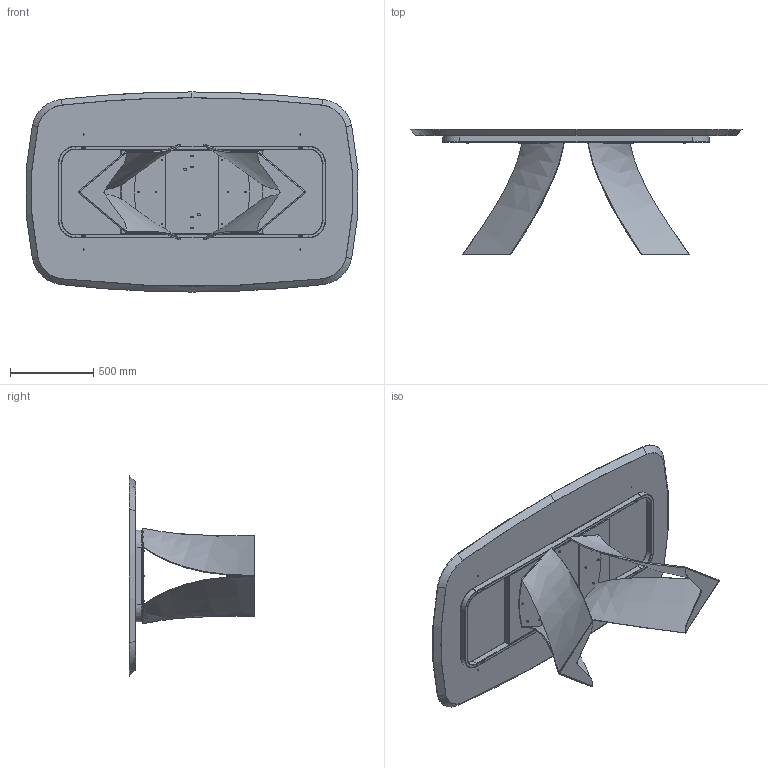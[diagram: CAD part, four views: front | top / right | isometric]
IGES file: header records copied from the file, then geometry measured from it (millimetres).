
Start section: SolidWorks IGES file using analytic representation for surfaces
Global section: file name: Y:\eforma\TECNICO\SOLIDWORKS\E-FORMA\1-TAVOLI\TWIST\02 parts\TW41W.IGS; native system: SolidWorks 2022; preprocessor: SolidWorks 2022; author: eforma.tech; date: 240807.143241; units: millimetre
Bounding box: 1990.53 x 753.37 x 1200 mm (x, y, z)
Volume: 91855133.2 mm3; surface area: 8981201.6 mm2
Topology: 52 solids, 52 shells, 1299 faces, 3042 edges, 1817 vertices
Faces by surface type: revolution 769, plane 464, bspline 66
